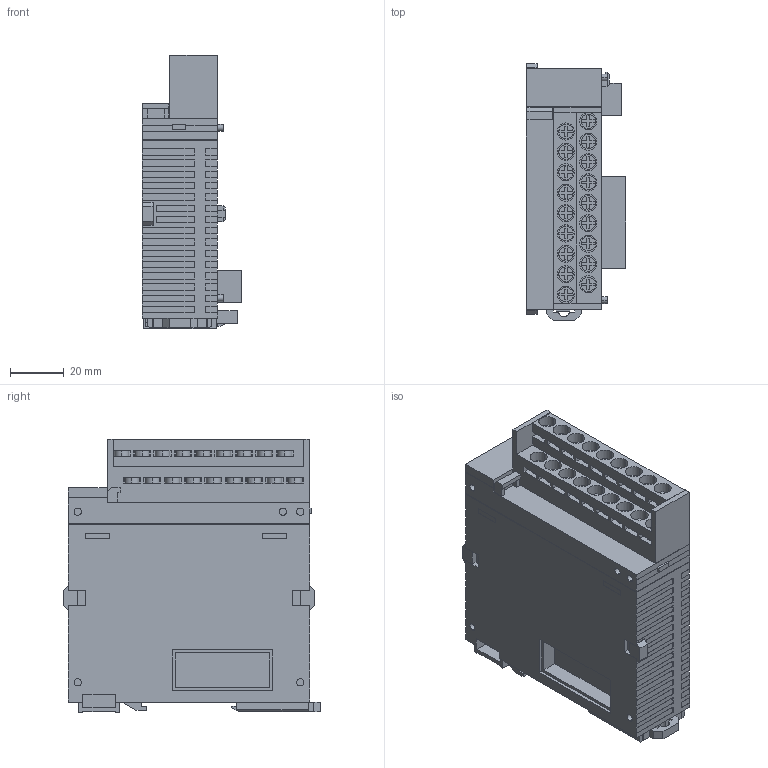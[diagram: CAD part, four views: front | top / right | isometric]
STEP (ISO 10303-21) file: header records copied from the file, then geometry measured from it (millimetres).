
FILE_DESCRIPTION (( 'STEP AP203' ), '1' );
FILE_NAME ('afp7x16dw.STEP', '2013-03-14T05:21:32', ( 'sunx' ), ( 'sunx' ), 'SwSTEP 2.0', 'SolidWorks 2010', '' );
FILE_SCHEMA (( 'CONFIG_CONTROL_DESIGN' ));
Length unit declared in the file: millimetre
Products named in the file (1): afp7x16dw
Bounding box: 37 x 95.75 x 102.1 mm (x, y, z)
Volume: 212847.7 mm3; surface area: 37013.8 mm2
Topology: 1 solids, 1 shells, 953 faces, 2667 edges, 1762 vertices
Faces by surface type: plane 857, cylinder 96
Entity records: 30372 total; most frequent: CARTESIAN_POINT 5383, ORIENTED_EDGE 5334, DIRECTION 4877, EDGE_CURVE 2667, LINE 2365, VECTOR 2365, VERTEX_POINT 1762, AXIS2_PLACEMENT_3D 1256
